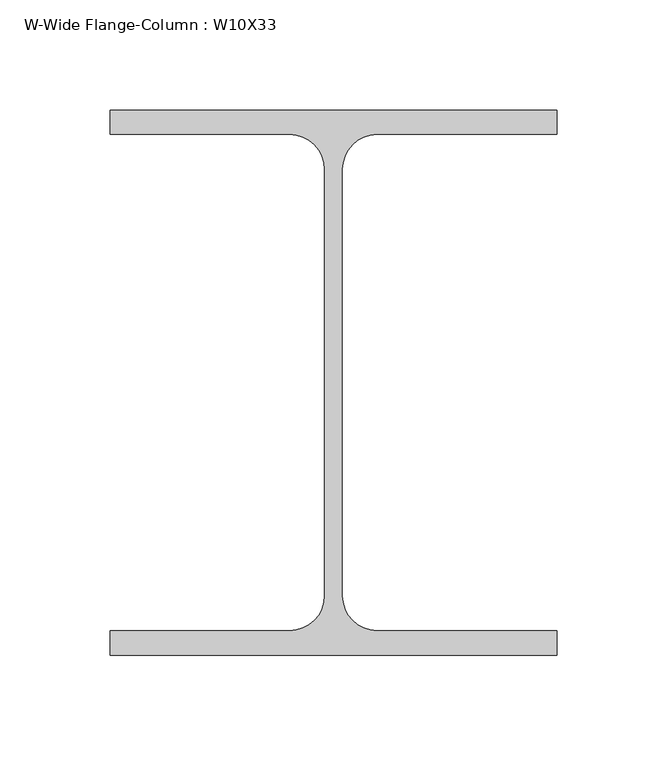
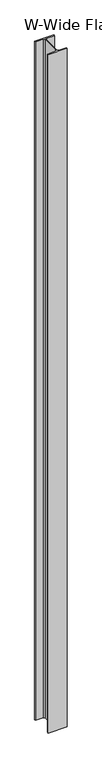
"""IFC4 building model written with IfcOpenShell, lengths in millimetres: column geometry, W-Wide Flange-Column : W10X33."""

from ifc_helpers import new_model, si_unit, point, frame, frame_2d, origin, place, context, project, spatial, polyline, circle_curve, trimmed, segment, composite_curve, outline, extrude, source, transform, mapped, element, save


def w_wide_flange_column_w10x33_8e126d35(model_context):
    return source(origin(), model_context, "Body", "SweptSolid", [
        extrude(outline(composite_curve([segment(polyline([(101.6, 123.825), (101.6, 112.7125), (19.84375, 112.7125)]), True, "CONTINUOUS"), segment(trimmed(circle_curve(frame_2d((19.84375, 96.8375)), 15.875), [point((19.84375, 112.7125))], [point((3.96875, 96.8375))], True, "CARTESIAN"), True, "CONTINUOUS"), segment(polyline([(3.96875, 96.8375), (3.96875, -96.8375)]), True, "CONTINUOUS"), segment(trimmed(circle_curve(frame_2d((19.84375, -96.8375)), 15.875), [point((3.96875, -96.8375))], [point((19.84375, -112.7125))], True, "CARTESIAN"), True, "CONTINUOUS"), segment(polyline([(19.84375, -112.7125), (101.6, -112.7125), (101.6, -123.825), (-101.6, -123.825), (-101.6, -112.7125), (-19.84375, -112.7125)]), True, "CONTINUOUS"), segment(trimmed(circle_curve(frame_2d((-19.84375, -96.8375)), 15.875), [point((-19.84375, -112.7125))], [point((-3.96875, -96.8375))], True, "CARTESIAN"), True, "CONTINUOUS"), segment(polyline([(-3.96875, -96.8375), (-3.96875, 96.8375)]), True, "CONTINUOUS"), segment(trimmed(circle_curve(frame_2d((-19.84375, 96.8375)), 15.875), [point((-3.96875, 96.8375))], [point((-19.84375, 112.7125))], True, "CARTESIAN"), True, "CONTINUOUS"), segment(polyline([(-19.84375, 112.7125), (-101.6, 112.7125), (-101.6, 123.825), (101.6, 123.825)]), True, "CONTINUOUS")], self_intersect=False)), frame((0.0, 0.0, -1524.0), z_axis=(0.0, 0.0, 1.0), x_axis=(1.0, 0.0, 0.0)), (0.0, 0.0, 1.0), 7620.0),
    ])


if __name__ == "__main__":
    model = new_model("IFC4")
    model_context = context("Model", 3, world=origin())
    ifc_project = project(units=[si_unit("LENGTHUNIT", "METRE", prefix="MILLI")], contexts=[model_context])
    site = spatial("IfcSite", under=ifc_project)
    building = spatial("IfcBuilding", under=site)
    placement = place(None, origin())
    w_wide_flange_column_w10x33_shape = w_wide_flange_column_w10x33_8e126d35(model_context)
    element("IfcColumn", 1, ObjectType="W-Wide Flange-Column : W10X33", at=placement, inside=building, context=model_context, shape_type="MappedRepresentation", body=[
        mapped(w_wide_flange_column_w10x33_shape, transform((0.0, 0.0, 0.0), x_axis=(1.0, 0.0, 0.0), y_axis=(0.0, 1.0, 0.0), z_axis=(0.0, 0.0, 1.0))),
    ])
    save(model, "model.ifc")
